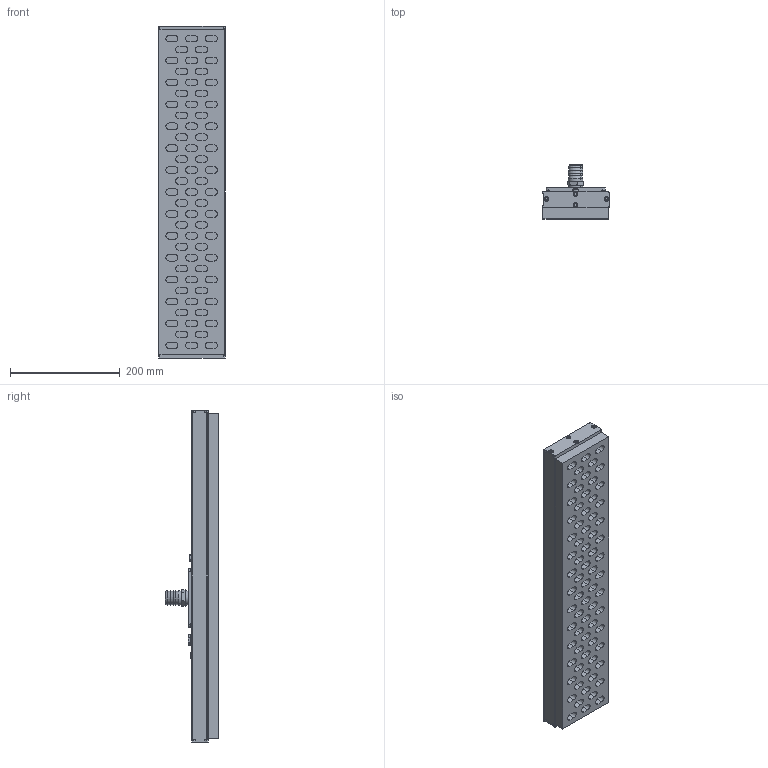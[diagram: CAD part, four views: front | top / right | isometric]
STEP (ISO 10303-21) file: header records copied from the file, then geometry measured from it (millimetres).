
FILE_DESCRIPTION (( 'STEP AP214' ), '1' );
FILE_NAME ('310 600 016.STEP', '2018-01-10T08:27:22', ( '' ), ( '' ), 'SwSTEP 2.0', 'SolidWorks 2017', '' );
FILE_SCHEMA (( 'AUTOMOTIVE_DESIGN' ));
Length unit declared in the file: millimetre
Products named in the file (1): 310 600 016
Bounding box: 121.5 x 98.5 x 606 mm (x, y, z)
Volume: 3331432.9 mm3; surface area: 326789.5 mm2
Topology: 1 solids, 1 shells, 829 faces, 1976 edges, 1264 vertices
Faces by surface type: plane 369, cylinder 330, torus 86, cone 34, bspline 6, sphere 4
Entity records: 33667 total; most frequent: CARTESIAN_POINT 4644, DIRECTION 4446, ORIENTED_EDGE 3932, EDGE_CURVE 1966, AXIS2_PLACEMENT_3D 1700, VERTEX_POINT 1258, LINE 1046, VECTOR 1046
